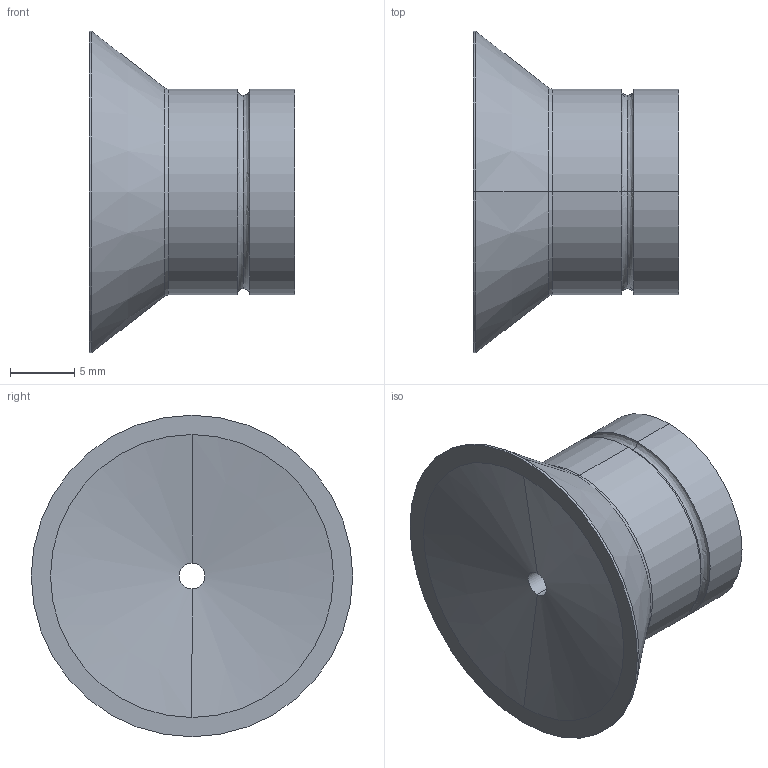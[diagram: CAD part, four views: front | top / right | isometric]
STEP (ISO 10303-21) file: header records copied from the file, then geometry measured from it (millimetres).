
FILE_DESCRIPTION (( 'STEP AP214' ), '1' );
FILE_NAME ('VSH-25R.STEP', '2019-11-14T01:32:57', ( '微软用户' ), ( '微软中国' ), 'SwSTEP 2.0', 'SolidWorks 2016', '' );
FILE_SCHEMA (( 'AUTOMOTIVE_DESIGN' ));
Length unit declared in the file: millimetre
Products named in the file (1): VSH-25R
Bounding box: 16 x 25 x 25 mm (x, y, z)
Volume: 3498.8 mm3; surface area: 1995 mm2
Topology: 1 solids, 1 shells, 26 faces, 52 edges, 30 vertices
Faces by surface type: cylinder 12, bspline 6, cone 4, plane 4
Entity records: 778 total; most frequent: CARTESIAN_POINT 217, DIRECTION 118, ORIENTED_EDGE 104, EDGE_CURVE 52, AXIS2_PLACEMENT_3D 51, CIRCLE 30, VERTEX_POINT 30, EDGE_LOOP 30
